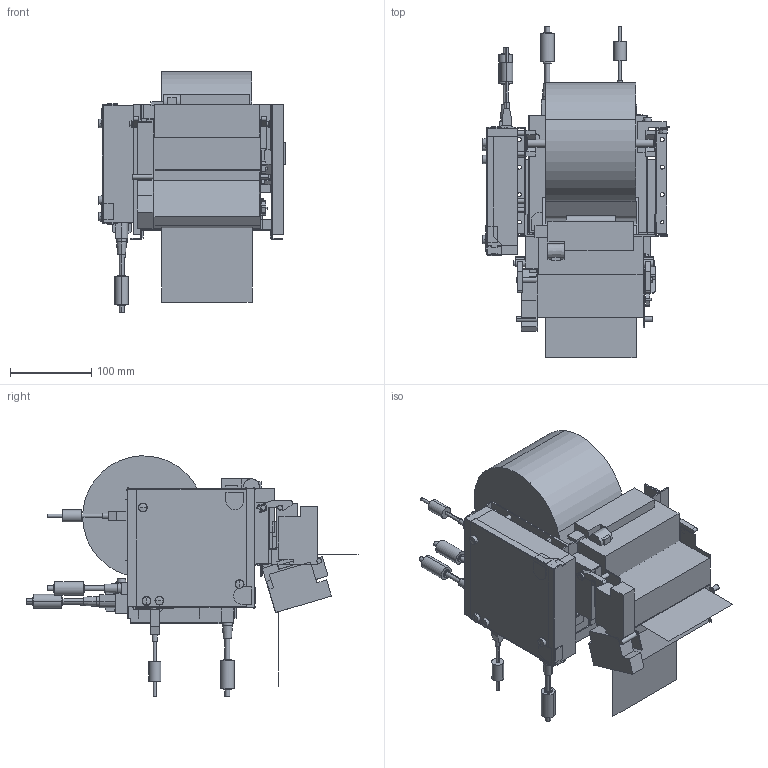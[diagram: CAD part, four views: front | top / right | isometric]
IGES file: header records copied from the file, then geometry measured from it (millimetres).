
Start section: Elysium IGES Interface
Global section: file name: X:\Sales\HP公開用\0916\TUP992_標準USB_0920_out.igs,    ; native system: Unknown; preprocessor: Unknown; author: CADDoctor; organization: ELYSIUM; date: 20110921.095137; units: millimetre
Bounding box: 230.7 x 409.3 x 296.23 mm (x, y, z)
Volume: 6415045 mm3; surface area: 718639.9 mm2
Topology: 13 solids, 13 shells, 1061 faces, 2819 edges, 1839 vertices
Faces by surface type: bspline 1061
